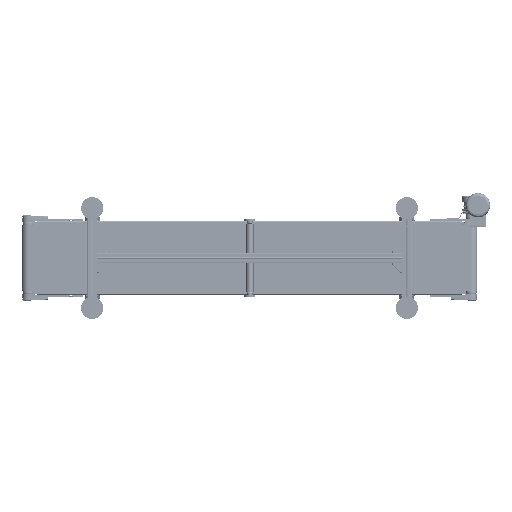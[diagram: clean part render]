
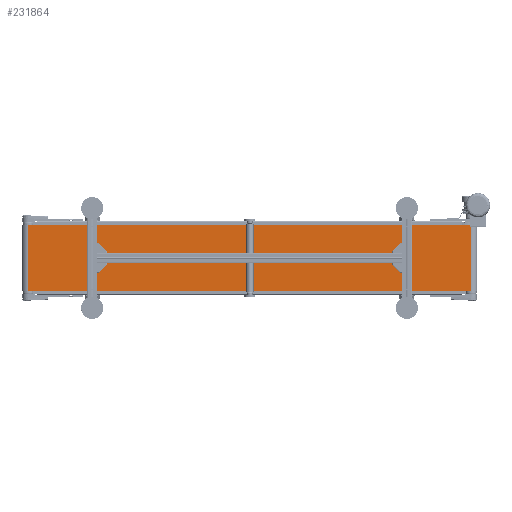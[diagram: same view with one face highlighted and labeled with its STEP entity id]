
A CAD part, front view. The second image highlights one B-rep face of the part: STEP entity #231864.
In plain terms, the highlighted planar face has unit normal (0, -1, 0).
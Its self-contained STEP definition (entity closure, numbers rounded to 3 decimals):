
#14617 = EDGE_LOOP ( 'NONE', ( #93892, #214692, #250663, #202323 ) ) ;
#20115 = AXIS2_PLACEMENT_3D ( 'NONE', #34366, #74571, #153652 ) ;
#28154 = CARTESIAN_POINT ( 'NONE',  ( -1000., -27., -150. ) ) ;
#34366 = CARTESIAN_POINT ( 'NONE',  ( -1000., -27., 150. ) ) ;
#52713 = VERTEX_POINT ( 'NONE', #93955 ) ;
#53842 = FACE_OUTER_BOUND ( 'NONE', #14617, .T. ) ;
#57449 = VECTOR ( 'NONE', #167784, 1000. ) ;
#69910 = VECTOR ( 'NONE', #218520, 1000. ) ;
#74571 = DIRECTION ( 'NONE',  ( 0., 1., 0. ) ) ;
#93892 = ORIENTED_EDGE ( 'NONE', *, *, #146974, .T. ) ;
#93955 = CARTESIAN_POINT ( 'NONE',  ( -1000., -27., 150. ) ) ;
#101250 = VECTOR ( 'NONE', #171158, 1000. ) ;
#105966 = LINE ( 'NONE', #28154, #149853 ) ;
#132921 = PLANE ( 'NONE',  #20115 ) ;
#134822 = CARTESIAN_POINT ( 'NONE',  ( 1000., -27., 150. ) ) ;
#138741 = EDGE_CURVE ( 'NONE', #249529, #249750, #154288, .T. ) ;
#146974 = EDGE_CURVE ( 'NONE', #160843, #249750, #105966, .T. ) ;
#149853 = VECTOR ( 'NONE', #185039, 1000. ) ;
#152732 = CARTESIAN_POINT ( 'NONE',  ( 1000., -27., 150. ) ) ;
#153652 = DIRECTION ( 'NONE',  ( 0., 0., 1. ) ) ;
#154288 = LINE ( 'NONE', #134822, #101250 ) ;
#160843 = VERTEX_POINT ( 'NONE', #229382 ) ;
#167784 = DIRECTION ( 'NONE',  ( 0., 0., -1. ) ) ;
#171158 = DIRECTION ( 'NONE',  ( 0., 0., -1. ) ) ;
#171595 = LINE ( 'NONE', #245646, #57449 ) ;
#175750 = CARTESIAN_POINT ( 'NONE',  ( -1000., -27., 150. ) ) ;
#180873 = LINE ( 'NONE', #175750, #69910 ) ;
#185039 = DIRECTION ( 'NONE',  ( 1., 0., 0. ) ) ;
#202323 = ORIENTED_EDGE ( 'NONE', *, *, #234278, .T. ) ;
#202715 = EDGE_CURVE ( 'NONE', #52713, #249529, #180873, .T. ) ;
#214692 = ORIENTED_EDGE ( 'NONE', *, *, #138741, .F. ) ;
#218520 = DIRECTION ( 'NONE',  ( 1., 0., 0. ) ) ;
#227728 = CARTESIAN_POINT ( 'NONE',  ( 1000., -27., -150. ) ) ;
#229382 = CARTESIAN_POINT ( 'NONE',  ( -1000., -27., -150. ) ) ;
#231864 = ADVANCED_FACE ( 'NONE', ( #53842 ), #132921, .F. ) ;
#234278 = EDGE_CURVE ( 'NONE', #52713, #160843, #171595, .T. ) ;
#245646 = CARTESIAN_POINT ( 'NONE',  ( -1000., -27., 150. ) ) ;
#249529 = VERTEX_POINT ( 'NONE', #152732 ) ;
#249750 = VERTEX_POINT ( 'NONE', #227728 ) ;
#250663 = ORIENTED_EDGE ( 'NONE', *, *, #202715, .F. ) ;
